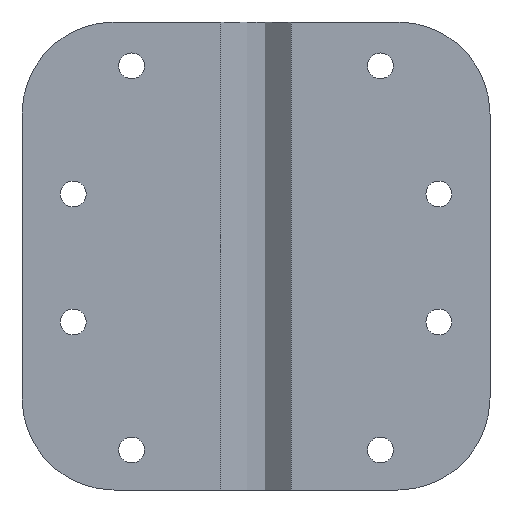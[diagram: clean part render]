
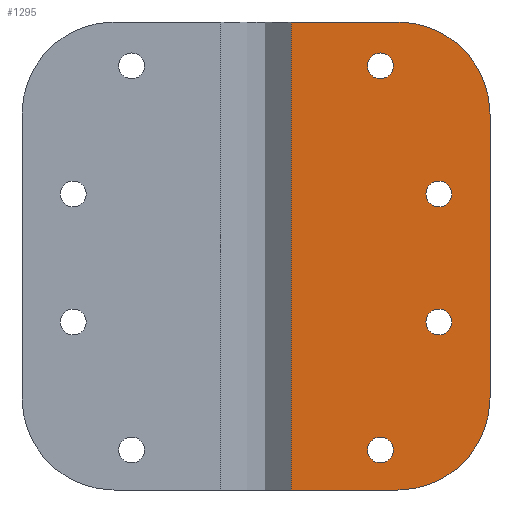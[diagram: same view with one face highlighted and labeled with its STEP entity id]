
A CAD part, front view. The second image highlights one B-rep face of the part: STEP entity #1295.
In plain terms, the highlighted planar face has unit normal (0, -1, 0).
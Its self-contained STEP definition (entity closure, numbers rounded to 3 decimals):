
#141=CARTESIAN_POINT('',(29.8,-3.175,41.28));
#142=VERTEX_POINT('',#141);
#151=CARTESIAN_POINT('',(24.2,-3.175,41.28));
#152=VERTEX_POINT('',#151);
#153=CARTESIAN_POINT('',(27.,-3.175,41.28));
#154=DIRECTION('',(0.0,1.0,0.0));
#155=DIRECTION('',(1.0,0.0,0.0));
#156=AXIS2_PLACEMENT_3D('',#153,#154,#155);
#157=CIRCLE('',#156,2.8);
#158=EDGE_CURVE('',#152,#142,#157,.T.);
#221=CARTESIAN_POINT('',(29.8,-3.175,-42.12));
#222=VERTEX_POINT('',#221);
#231=CARTESIAN_POINT('',(24.2,-3.175,-42.12));
#232=VERTEX_POINT('',#231);
#233=CARTESIAN_POINT('',(27.,-3.175,-42.12));
#234=DIRECTION('',(0.0,1.0,0.0));
#235=DIRECTION('',(1.0,0.0,0.0));
#236=AXIS2_PLACEMENT_3D('',#233,#234,#235);
#237=CIRCLE('',#236,2.8);
#238=EDGE_CURVE('',#232,#222,#237,.T.);
#461=CARTESIAN_POINT('',(42.49,-3.175,13.48));
#462=VERTEX_POINT('',#461);
#471=CARTESIAN_POINT('',(36.89,-3.175,13.48));
#472=VERTEX_POINT('',#471);
#473=CARTESIAN_POINT('',(39.69,-3.175,13.48));
#474=DIRECTION('',(0.0,1.0,0.0));
#475=DIRECTION('',(1.0,0.0,0.0));
#476=AXIS2_PLACEMENT_3D('',#473,#474,#475);
#477=CIRCLE('',#476,2.8);
#478=EDGE_CURVE('',#472,#462,#477,.T.);
#541=CARTESIAN_POINT('',(42.49,-3.175,-14.32));
#542=VERTEX_POINT('',#541);
#551=CARTESIAN_POINT('',(36.89,-3.175,-14.32));
#552=VERTEX_POINT('',#551);
#553=CARTESIAN_POINT('',(39.69,-3.175,-14.32));
#554=DIRECTION('',(0.0,1.0,0.0));
#555=DIRECTION('',(1.0,0.0,0.0));
#556=AXIS2_PLACEMENT_3D('',#553,#554,#555);
#557=CIRCLE('',#556,2.8);
#558=EDGE_CURVE('',#552,#542,#557,.T.);
#874=CARTESIAN_POINT('',(39.69,-3.175,-14.32));
#875=DIRECTION('',(0.0,1.0,0.0));
#876=DIRECTION('',(1.0,0.0,0.0));
#877=AXIS2_PLACEMENT_3D('',#874,#875,#876);
#878=CIRCLE('',#877,2.8);
#879=EDGE_CURVE('',#542,#552,#878,.T.);
#910=CARTESIAN_POINT('',(39.69,-3.175,13.48));
#911=DIRECTION('',(0.0,1.0,0.0));
#912=DIRECTION('',(1.0,0.0,0.0));
#913=AXIS2_PLACEMENT_3D('',#910,#911,#912);
#914=CIRCLE('',#913,2.8);
#915=EDGE_CURVE('',#462,#472,#914,.T.);
#1018=CARTESIAN_POINT('',(27.,-3.175,-42.12));
#1019=DIRECTION('',(0.0,1.0,0.0));
#1020=DIRECTION('',(1.0,0.0,0.0));
#1021=AXIS2_PLACEMENT_3D('',#1018,#1019,#1020);
#1022=CIRCLE('',#1021,2.8);
#1023=EDGE_CURVE('',#222,#232,#1022,.T.);
#1054=CARTESIAN_POINT('',(27.,-3.175,41.28));
#1055=DIRECTION('',(0.0,1.0,0.0));
#1056=DIRECTION('',(1.0,0.0,0.0));
#1057=AXIS2_PLACEMENT_3D('',#1054,#1055,#1056);
#1058=CIRCLE('',#1057,2.8);
#1059=EDGE_CURVE('',#142,#152,#1058,.T.);
#1140=CARTESIAN_POINT('',(7.62,-3.175,50.8));
#1141=VERTEX_POINT('',#1140);
#1149=CARTESIAN_POINT('',(7.62,-3.175,-50.8));
#1150=VERTEX_POINT('',#1149);
#1157=CARTESIAN_POINT('',(7.62,-3.175,50.8));
#1158=DIRECTION('',(0.0,0.0,-1.0));
#1159=VECTOR('',#1158,101.6);
#1160=LINE('',#1157,#1159);
#1161=EDGE_CURVE('',#1141,#1150,#1160,.T.);
#1231=CARTESIAN_POINT('',(0.,-3.175,0.));
#1232=DIRECTION('',(0.0,-1.0,0.0));
#1233=DIRECTION('',(1.0,0.0,0.0));
#1234=AXIS2_PLACEMENT_3D('',#1231,#1232,#1233);
#1235=PLANE('',#1234);
#1236=ORIENTED_EDGE('',*,*,#1161,.T.);
#1237=CARTESIAN_POINT('',(30.8,-3.175,-50.8));
#1238=VERTEX_POINT('',#1237);
#1239=CARTESIAN_POINT('',(30.8,-3.175,-50.8));
#1240=DIRECTION('',(-1.0,0.0,0.0));
#1241=VECTOR('',#1240,23.18);
#1242=LINE('',#1239,#1241);
#1243=EDGE_CURVE('',#1238,#1150,#1242,.T.);
#1244=ORIENTED_EDGE('',*,*,#1243,.F.);
#1245=CARTESIAN_POINT('',(50.8,-3.175,-30.8));
#1246=VERTEX_POINT('',#1245);
#1247=CARTESIAN_POINT('',(30.8,-3.175,-30.8));
#1248=DIRECTION('',(0.0,1.0,0.0));
#1249=DIRECTION('',(1.0,0.0,0.0));
#1250=AXIS2_PLACEMENT_3D('',#1247,#1248,#1249);
#1251=CIRCLE('',#1250,20.0);
#1252=EDGE_CURVE('',#1246,#1238,#1251,.T.);
#1253=ORIENTED_EDGE('',*,*,#1252,.F.);
#1254=CARTESIAN_POINT('',(50.8,-3.175,30.8));
#1255=VERTEX_POINT('',#1254);
#1256=CARTESIAN_POINT('',(50.8,-3.175,30.8));
#1257=DIRECTION('',(0.0,0.0,-1.0));
#1258=VECTOR('',#1257,61.6);
#1259=LINE('',#1256,#1258);
#1260=EDGE_CURVE('',#1255,#1246,#1259,.T.);
#1261=ORIENTED_EDGE('',*,*,#1260,.F.);
#1262=CARTESIAN_POINT('',(30.8,-3.175,50.8));
#1263=VERTEX_POINT('',#1262);
#1264=CARTESIAN_POINT('',(30.8,-3.175,30.8));
#1265=DIRECTION('',(0.0,1.0,0.0));
#1266=DIRECTION('',(1.0,0.0,0.0));
#1267=AXIS2_PLACEMENT_3D('',#1264,#1265,#1266);
#1268=CIRCLE('',#1267,20.0);
#1269=EDGE_CURVE('',#1263,#1255,#1268,.T.);
#1270=ORIENTED_EDGE('',*,*,#1269,.F.);
#1271=CARTESIAN_POINT('',(7.62,-3.175,50.8));
#1272=DIRECTION('',(1.0,0.0,0.0));
#1273=VECTOR('',#1272,23.18);
#1274=LINE('',#1271,#1273);
#1275=EDGE_CURVE('',#1141,#1263,#1274,.T.);
#1276=ORIENTED_EDGE('',*,*,#1275,.F.);
#1277=EDGE_LOOP('',(#1236,#1244,#1253,#1261,#1270,#1276));
#1278=FACE_OUTER_BOUND('',#1277,.T.);
#1279=ORIENTED_EDGE('',*,*,#879,.T.);
#1280=ORIENTED_EDGE('',*,*,#558,.T.);
#1281=EDGE_LOOP('',(#1279,#1280));
#1282=FACE_BOUND('',#1281,.T.);
#1283=ORIENTED_EDGE('',*,*,#915,.T.);
#1284=ORIENTED_EDGE('',*,*,#478,.T.);
#1285=EDGE_LOOP('',(#1283,#1284));
#1286=FACE_BOUND('',#1285,.T.);
#1287=ORIENTED_EDGE('',*,*,#1023,.T.);
#1288=ORIENTED_EDGE('',*,*,#238,.T.);
#1289=EDGE_LOOP('',(#1287,#1288));
#1290=FACE_BOUND('',#1289,.T.);
#1291=ORIENTED_EDGE('',*,*,#1059,.T.);
#1292=ORIENTED_EDGE('',*,*,#158,.T.);
#1293=EDGE_LOOP('',(#1291,#1292));
#1294=FACE_BOUND('',#1293,.T.);
#1295=ADVANCED_FACE('',(#1278,#1282,#1286,#1290,#1294),#1235,.T.);
